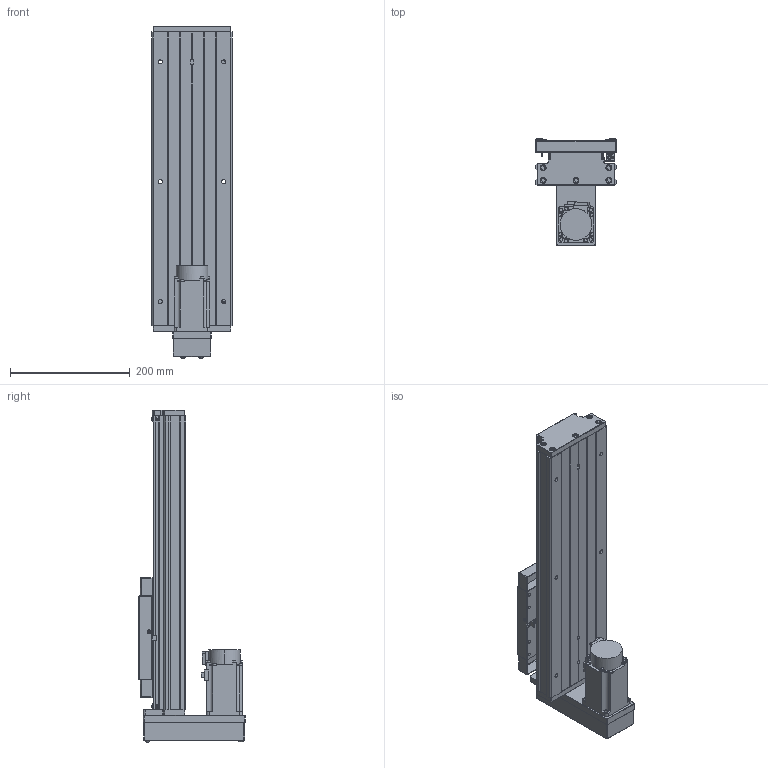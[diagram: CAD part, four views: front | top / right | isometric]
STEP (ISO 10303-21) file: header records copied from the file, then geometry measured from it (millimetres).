
FILE_DESCRIPTION (( 'STEP AP203' ), '1' );
FILE_NAME ('GTH14-250-BM-M40-C4.step', '2023-06-30T08:45:22', ( '微软用户' ), ( '微软中国' ), 'SwSTEP 2.0', 'SolidWorks 2020', '' );
FILE_SCHEMA (( 'CONFIG_CONTROL_DESIGN' ));
Length unit declared in the file: millimetre
Products named in the file (19): CTHA60-017; す晦芛蹟隊 M3℅5; GTH14-001_250; EE_SX911P_R; HG-KN43J-S100; GTH14-002_GTH14-002; CTHA60-016; GBT 70.2-M4¡Á35_M4¡Á35; GTH14-004; GBT 70.1-M3℅5; GTH14-015-2_CTHA86-015-2; GTH14-005; GBT77-2000 M3×3; GTH14-033; GB1155-6X6; GTH14-031; GTH14-250-BM-M40-C4; GBT70.1 M5℅16; GBT 70.2-M3¡Á5_M3¡Á6
Assembly tree (58 placements, depth 2):
  GTH14-250-BM-M40-C4
    GTH14-001_250
    GTH14-002_GTH14-002
    GTH14-004
    GTH14-005
    GB1155-6X6  x2
    GBT70.1 M5℅16  x10
    CTHA60-017  x3
    EE_SX911P_R  x3
    CTHA60-016  x2
    GBT 70.1-M3℅5  x6
    GBT77-2000 M3×3  x6
    GTH14-031
    GBT 70.2-M3¡Á5_M3¡Á6  x8
    す晦芛蹟隊 M3℅5  x6
    HG-KN43J-S100
    GBT 70.2-M4¡Á35_M4¡Á35  x4
    GTH14-015-2_CTHA86-015-2
    GTH14-033
Bounding box: 135 x 177.5 x 554.2 mm (x, y, z)
Volume: 3366723.3 mm3; surface area: 626003.4 mm2
Topology: 61 solids, 61 shells, 2433 faces, 5785 edges, 3562 vertices
Faces by surface type: plane 1303, cylinder 640, cone 314, torus 124, sphere 32, bspline 20
Entity records: 43542 total; most frequent: CARTESIAN_POINT 9757, DIRECTION 6369, ORIENTED_EDGE 6260, EDGE_CURVE 3130, AXIS2_PLACEMENT_3D 2166, VECTOR 2037, LINE 2037, VERTEX_POINT 1980
